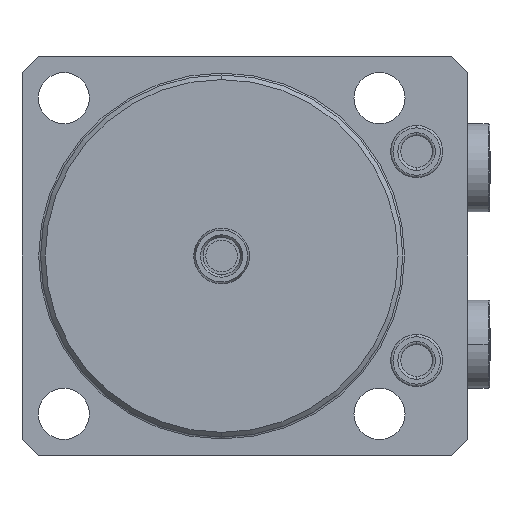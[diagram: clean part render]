
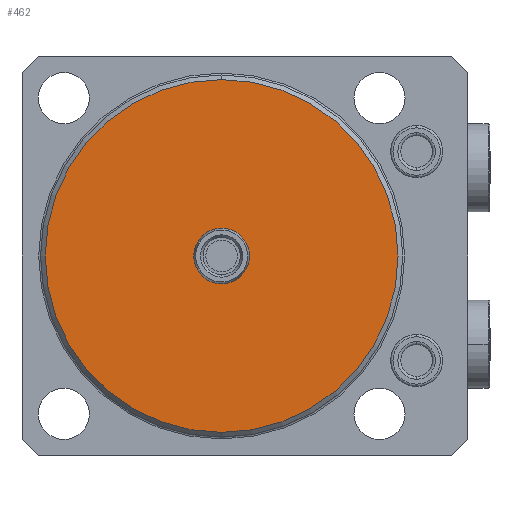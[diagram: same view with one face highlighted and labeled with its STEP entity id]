
A CAD part, front view. The second image highlights one B-rep face of the part: STEP entity #462.
In plain terms, the highlighted planar face has unit normal (0, -1, 0) as drawn and (0, 1, 0) by its records, which use the part's own axes.
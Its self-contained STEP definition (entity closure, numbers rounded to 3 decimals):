
#200=PLANE('',#4811);
#310=FACE_BOUND('',#1108,.F.);
#311=FACE_BOUND('',#1109,.F.);
#462=ADVANCED_FACE('',(#310,#311),#200,.T.);
#1108=EDGE_LOOP('',(#1967,#1968));
#1109=EDGE_LOOP('',(#1969,#1970));
#1390=CIRCLE('',#4694,6.);
#1445=CIRCLE('',#4772,38.);
#1465=CIRCLE('',#4809,6.);
#1466=CIRCLE('',#4810,38.);
#1967=ORIENTED_EDGE('',*,*,#3619,.T.);
#1968=ORIENTED_EDGE('',*,*,#3436,.T.);
#1969=ORIENTED_EDGE('',*,*,#3620,.T.);
#1970=ORIENTED_EDGE('',*,*,#3524,.T.);
#3008=VERTEX_POINT('',#6813);
#3009=VERTEX_POINT('',#6814);
#3080=VERTEX_POINT('',#7001);
#3081=VERTEX_POINT('',#7002);
#3436=EDGE_CURVE('',#3008,#3009,#1390,.T.);
#3524=EDGE_CURVE('',#3080,#3081,#1445,.T.);
#3619=EDGE_CURVE('',#3009,#3008,#1465,.T.);
#3620=EDGE_CURVE('',#3081,#3080,#1466,.T.);
#4694=AXIS2_PLACEMENT_3D('',#6812,#5338,#5339);
#4772=AXIS2_PLACEMENT_3D('',#7000,#5526,#5527);
#4809=AXIS2_PLACEMENT_3D('',#7275,#5650,#5651);
#4810=AXIS2_PLACEMENT_3D('',#7276,#5652,#5653);
#4811=AXIS2_PLACEMENT_3D('',#7277,#5654,#5655);
#5338=DIRECTION('',(0.,1.,0.));
#5339=DIRECTION('',(0.,0.,1.));
#5526=DIRECTION('',(0.,-1.,0.));
#5527=DIRECTION('',(0.,0.,1.));
#5650=DIRECTION('',(0.,1.,0.));
#5651=DIRECTION('',(0.,0.,1.));
#5652=DIRECTION('',(0.,-1.,0.));
#5653=DIRECTION('',(0.,0.,1.));
#5654=DIRECTION('',(0.,1.,0.));
#5655=DIRECTION('',(0.,0.,1.));
#6812=CARTESIAN_POINT('',(0.,-55.,0.));
#6813=CARTESIAN_POINT('',(0.,-55.,-6.));
#6814=CARTESIAN_POINT('',(0.,-55.,6.));
#7000=CARTESIAN_POINT('',(0.,-55.,0.));
#7001=CARTESIAN_POINT('',(0.,-55.,-38.));
#7002=CARTESIAN_POINT('',(0.,-55.,38.));
#7275=CARTESIAN_POINT('',(0.,-55.,0.));
#7276=CARTESIAN_POINT('',(0.,-55.,0.));
#7277=CARTESIAN_POINT('',(0.,-55.,0.));
